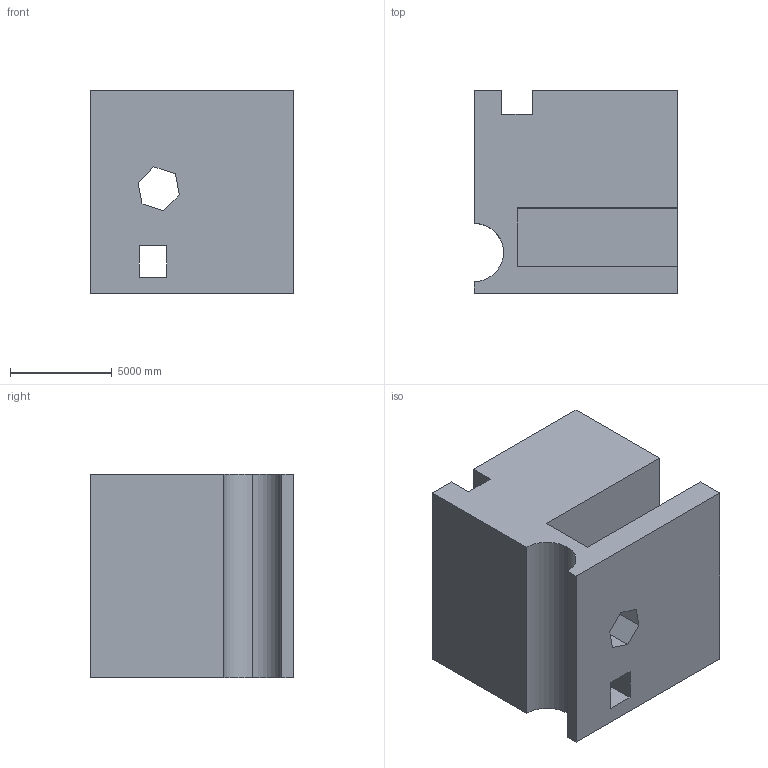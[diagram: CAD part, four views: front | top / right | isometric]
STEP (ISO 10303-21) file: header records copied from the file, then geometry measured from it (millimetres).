
FILE_DESCRIPTION (( 'STEP AP203' ), '1' );
FILE_NAME ('1438.STEP', '2022-08-18T14:28:35', ( 'user' ), ( '' ), 'SwSTEP 2.0', 'SolidWorks 2021', '' );
FILE_SCHEMA (( 'CONFIG_CONTROL_DESIGN' ));
Length unit declared in the file: centimetre
Products named in the file (1): 1438
Bounding box: 10000 x 10000 x 10000 mm (x, y, z)
Volume: 834357777595.8 mm3; surface area: 779185122.1 mm2
Topology: 1 solids, 1 shells, 29 faces, 87 edges, 58 vertices
Faces by surface type: plane 27, cylinder 2
Entity records: 1050 total; most frequent: CARTESIAN_POINT 175, ORIENTED_EDGE 174, DIRECTION 151, EDGE_CURVE 87, LINE 83, VECTOR 83, VERTEX_POINT 58, AXIS2_PLACEMENT_3D 34
